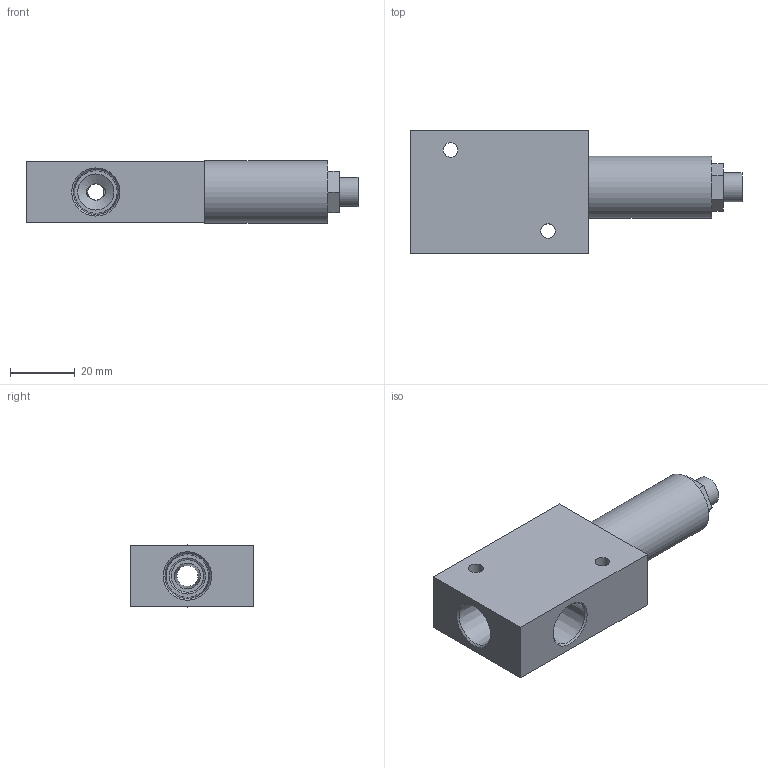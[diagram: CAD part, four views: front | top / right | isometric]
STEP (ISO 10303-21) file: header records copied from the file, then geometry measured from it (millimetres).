
FILE_DESCRIPTION (( 'STEP AP214' ), '1' );
FILE_NAME ('SSV-110-N.STEP', '2025-09-16T13:20:50', ( '' ), ( '' ), 'SwSTEP 2.0', 'SolidWorks 2025', '' );
FILE_SCHEMA (( 'AUTOMOTIVE_DESIGN' ));
Length unit declared in the file: inch
Products named in the file (3): 1023; SSV-110-N; GS-ST14
Assembly tree (2 placements, depth 2):
  SSV-110-N
    GS-ST14
    1023
Bounding box: 102.2 x 38.1 x 19.1 mm (x, y, z)
Volume: 41333.3 mm3; surface area: 15394.2 mm2
Topology: 2 solids, 2 shells, 47 faces, 108 edges, 71 vertices
Faces by surface type: plane 21, cylinder 14, cone 12
Full cylindrical faces by diameter (mm): 4.5 x2, 5 x1, 8 x1, 8.433 x1, 8.95 x1, 10 x1, 11.125 x2, 11.8 x1, 12.6 x1, 19.1 x1
Entity records: 1368 total; most frequent: CARTESIAN_POINT 319, DIRECTION 208, ORIENTED_EDGE 148, EDGE_LOOP 90, AXIS2_PLACEMENT_3D 89, EDGE_CURVE 74, VERTEX_POINT 62, FACE_OUTER_BOUND 59
